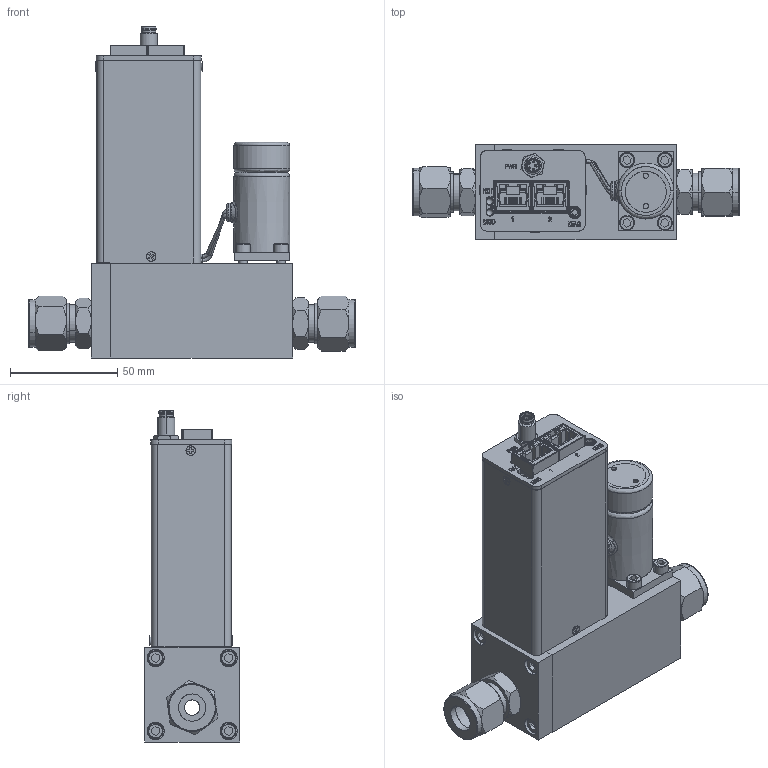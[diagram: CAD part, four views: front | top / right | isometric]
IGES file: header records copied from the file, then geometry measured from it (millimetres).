
Start section: SolidWorks IGES file using analytic representation for surfaces
Global section: file name: G:\Engineering\CAD MODELS FOR SALES\CAD MODEL STORAGE\SLA\SLA5851\CUSTOMER FILES\IGES\SLA5851-7-1P-1-A-REVB.IGS; native system: SolidWorks 2020; preprocessor: SolidWorks 2020; author: SThen; date: 230427.102604; units: inch
Bounding box: 151.97 x 44.3 x 154.44 mm (x, y, z)
Surface area: 123550.2 mm2 (no closed solid volume)
Topology: 0 solids, 0 shells, 2350 faces, 23086 edges, 23013 vertices
Faces by surface type: bspline 1622, revolution 728
